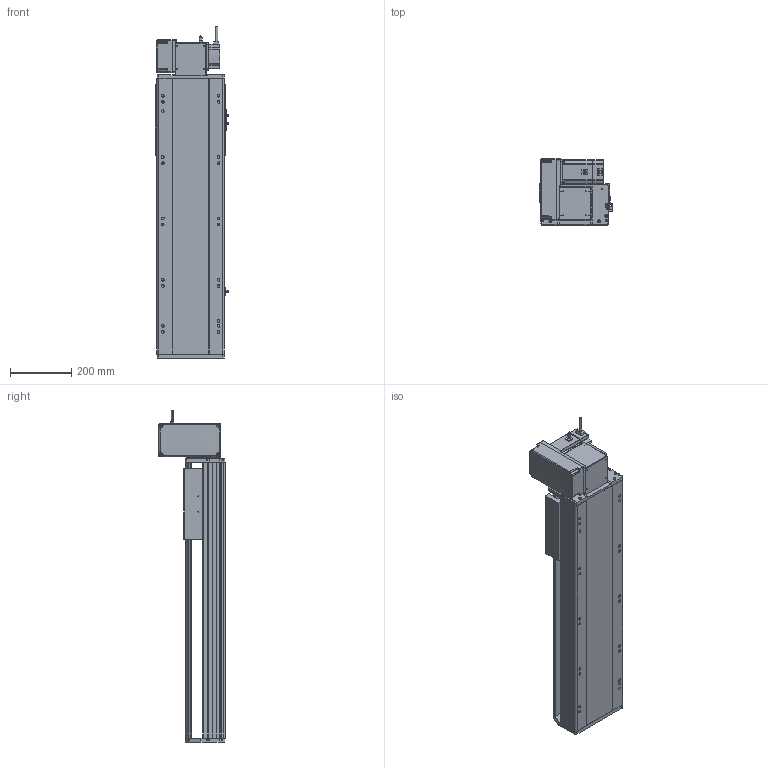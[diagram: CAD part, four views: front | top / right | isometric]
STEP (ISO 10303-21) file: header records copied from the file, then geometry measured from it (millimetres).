
FILE_DESCRIPTION (( 'STEP AP214' ), '1' );
FILE_NAME ('RTB22S-XX-550-LW-M75-C4.STEP', '2025-12-12T05:52:37', ( '' ), ( '' ), 'SwSTEP 2.0', 'SolidWorks 2018', '' );
FILE_SCHEMA (( 'AUTOMOTIVE_DESIGN' ));
Length unit declared in the file: millimetre
Products named in the file (14): RTB22S-L-004賑釱^RTB22S-XX-XX-LW-M75-C4; RTB22S-GY-007奻裔^RTB22S-XX-XX-LW-M75-C4; RTB22S-GY-008-M75--萇儂啣^RTB22S-LW-々湍釱蚾饜_RTB22S-XX-XX-LW-M75-C4; 750W萇儂^RTB22S-XX-XX-LW-M75-C4; RTB22S-GY-001耜裔^RTB22S-XX-XX-LW-M75-C4; RTB22S-L-011菁釱^RTB22S-XX-XX-LW-M75-C4; RTB22S-GY-017P^RTB22S-LW-々湍釱蚾饜_RTB22S-XX-XX-LW-M75-C4; OMRON EE-SX672 传感器^RTB22S-XX-XX-LW-M75-C4; RTB22S-GY-005P^RTB22S-LW-々湍釱蚾饜_RTB22S-XX-XX-LW-M75-C4; RTB22S-GY-018P^RTB22S-LW-々湍釱蚾饜_RTB22S-XX-XX-LW-M75-C4; RTB22S-LW-々湍釱蚾饜^RTB22S-XX-XX-LW-M75-C4; RTB22S-GY-014--々湍釱^RTB22S-LW-々湍釱蚾饜_RTB22S-XX-XX-LW-M75-C4; RTH22-GY-013外置感应片^RTB22S-XX-XX-LW-M75-C4; RTB22S-XX-550-LW-M75-C4
Assembly tree (16 placements, depth 3):
  RTB22S-XX-550-LW-M75-C4
    RTB22S-L-011菁釱^RTB22S-XX-XX-LW-M75-C4
    RTB22S-GY-001耜裔^RTB22S-XX-XX-LW-M75-C4
    750W萇儂^RTB22S-XX-XX-LW-M75-C4
    RTB22S-GY-007奻裔^RTB22S-XX-XX-LW-M75-C4
    RTB22S-L-004賑釱^RTB22S-XX-XX-LW-M75-C4
    RTH22-GY-013外置感应片^RTB22S-XX-XX-LW-M75-C4
    OMRON EE-SX672 传感器^RTB22S-XX-XX-LW-M75-C4  x3
    RTB22S-LW-々湍釱蚾饜^RTB22S-XX-XX-LW-M75-C4
      RTB22S-GY-014--々湍釱^RTB22S-LW-々湍釱蚾饜_RTB22S-XX-XX-LW-M75-C4
      RTB22S-GY-017P^RTB22S-LW-々湍釱蚾饜_RTB22S-XX-XX-LW-M75-C4  x2
      RTB22S-GY-005P^RTB22S-LW-々湍釱蚾饜_RTB22S-XX-XX-LW-M75-C4
      RTB22S-GY-008-M75--萇儂啣^RTB22S-LW-々湍釱蚾饜_RTB22S-XX-XX-LW-M75-C4
      RTB22S-GY-018P^RTB22S-LW-々湍釱蚾饜_RTB22S-XX-XX-LW-M75-C4
Bounding box: 238.5 x 215.5 x 1082.2 mm (x, y, z)
Volume: 16048101.1 mm3; surface area: 1691634.9 mm2
Topology: 15 solids, 15 shells, 1929 faces, 5236 edges, 3362 vertices
Faces by surface type: plane 909, cylinder 586, bspline 296, cone 126, sphere 8, torus 4
Entity records: 50794 total; most frequent: CARTESIAN_POINT 14728, ORIENTED_EDGE 7284, DIRECTION 6956, EDGE_CURVE 3642, AXIS2_PLACEMENT_3D 2434, VERTEX_POINT 2366, LINE 2088, VECTOR 2088
